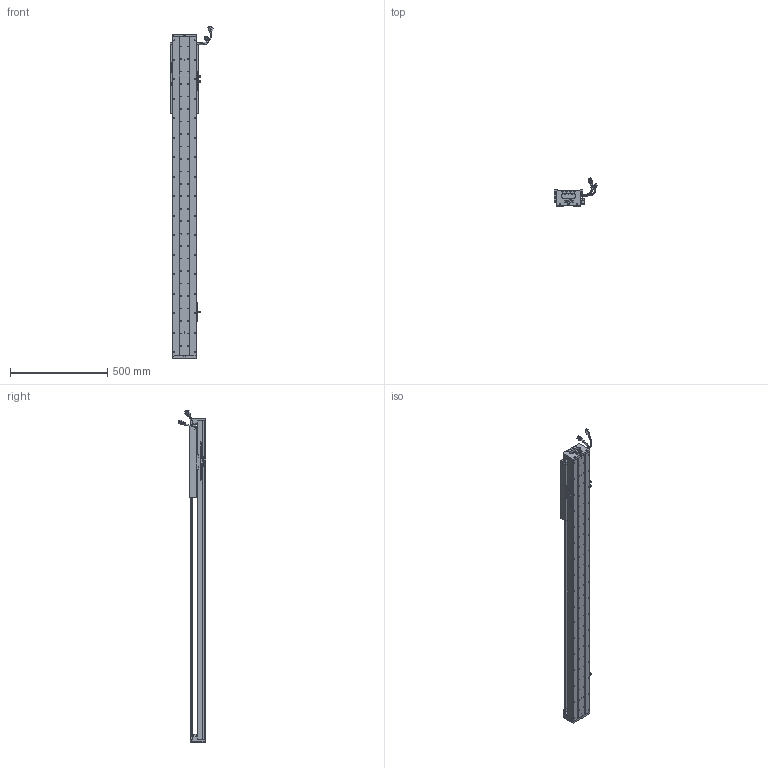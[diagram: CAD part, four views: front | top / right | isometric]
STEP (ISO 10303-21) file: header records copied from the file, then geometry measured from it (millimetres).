
FILE_DESCRIPTION (( 'STEP AP203' ), '1' );
FILE_NAME ('Z5-RY120D-1-L500-B-K.SLDASM_1200.step', '2021-05-17T06:22:35', ( '盈信电脑' ), ( '东莞市道滘镇水果街19号' ), 'SwSTEP 2.0', 'SolidWorks 2016', '' );
FILE_SCHEMA (( 'CONFIG_CONTROL_DESIGN' ));
Length unit declared in the file: millimetre
Products named in the file (37): SCREW-M1.6; 覜茼ん672; SCREW-M1.7-1; SCALE-Part-2; HOLDER0; Z-RY120D詩湍狟揤裔; SCREW-M1.6-3; 080黍杅芛假蚾釱21遴; SCALE; SCALE-Part-1; 672嫖萇羲壽假蚾釱; Z-RY120D詩湍奻揤裔; RY100FB-遵嫖萇覜茼え; SCREW-M1.6-1; LABEL; Z5-RY120-L500詩湍100mm遵_1200; COVER; SEAL; HARNESS-Part-1; COVER-Part-1; SCREW-M1.6-2; LABEL-Part-1; 榋妏寠巭燃_暯_M2_2; 140蚥薯蝶輸; SCREW-M1.7; Z-120詩湍傷裔啣; HARNESS; SHIELDPLATE; HARNESS-Part-2; SEAL-Part-1; Z5-RY120铝滑块（21款）; 140雄赽晤鎢ん堤盄; 120-Z-臏賑輸盄裔(21遴); Z5-RY120D-1-L500-B-K.SLDASM_1200; PBU_SHEET; Z5-RY120-500-倰第菁釱_1200; PSLH080_PSLF2
Assembly tree (43 placements, depth 4):
  Z5-RY120D-1-L500-B-K.SLDASM_1200
    Z5-RY120-500-倰第菁釱_1200
    覜茼ん672  x3
    672嫖萇羲壽假蚾釱  x2
    Z5-RY120铝滑块（21款）
    PSLH080_PSLF2
      SCALE
        SCALE-Part-1
        SCALE-Part-2
      HARNESS
        HARNESS-Part-1
        HARNESS-Part-2
      LABEL
        LABEL-Part-1
      COVER
        COVER-Part-1
      SEAL
        SEAL-Part-1
      榋妏寠巭燃_暯_M2_2
      SHIELDPLATE
      SCREW-M1.7
      SCREW-M1.7-1
      PBU_SHEET
      SCREW-M1.6
      SCREW-M1.6-1
      SCREW-M1.6-2
      SCREW-M1.6-3
      HOLDER0
    080黍杅芛假蚾釱21遴
    120-Z-臏賑輸盄裔(21遴)
    140雄赽晤鎢ん堤盄
    140蚥薯蝶輸  x2
    RY100FB-遵嫖萇覜茼え
    Z-120詩湍傷裔啣  x2
    Z-RY120D詩湍奻揤裔  x2
    Z-RY120D詩湍狟揤裔  x2
    Z5-RY120-L500詩湍100mm遵_1200
Bounding box: 222.86 x 140.94 x 1703.99 mm (x, y, z)
Volume: 4665050.4 mm3; surface area: 1536905.7 mm2
Topology: 38 solids, 38 shells, 3237 faces, 8959 edges, 5660 vertices
Faces by surface type: cylinder 1607, plane 1186, cone 322, torus 69, bspline 53
Entity records: 102816 total; most frequent: CARTESIAN_POINT 29341, ORIENTED_EDGE 14798, DIRECTION 14109, EDGE_CURVE 7399, AXIS2_PLACEMENT_3D 5210, VERTEX_POINT 4780, VECTOR 3689, LINE 3689
